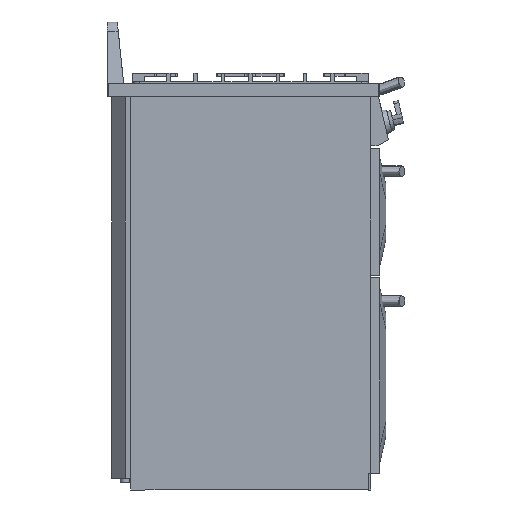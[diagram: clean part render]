
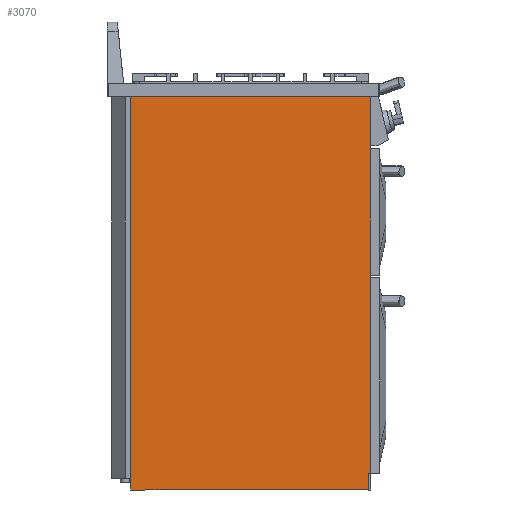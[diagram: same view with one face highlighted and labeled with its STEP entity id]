
A CAD part, left-side view. The second image highlights one B-rep face of the part: STEP entity #3070.
In plain terms, the highlighted planar face has unit normal (-1, 0, 0).
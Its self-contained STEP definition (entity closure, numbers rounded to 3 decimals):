
#3070=ADVANCED_FACE('',(#4920),#4126,.F.);
#4126=PLANE('',#23021);
#4920=FACE_OUTER_BOUND('',#6172,.T.);
#6172=EDGE_LOOP('',(#9028,#9029,#9030,#9031,#9032,#9033));
#9028=ORIENTED_EDGE('',*,*,#16256,.F.);
#9029=ORIENTED_EDGE('',*,*,#16257,.T.);
#9030=ORIENTED_EDGE('',*,*,#16247,.F.);
#9031=ORIENTED_EDGE('',*,*,#16258,.F.);
#9032=ORIENTED_EDGE('',*,*,#16248,.F.);
#9033=ORIENTED_EDGE('',*,*,#16241,.F.);
#13854=VERTEX_POINT('',#33634);
#13856=VERTEX_POINT('',#33637);
#13859=VERTEX_POINT('',#33644);
#13861=VERTEX_POINT('',#33648);
#13862=VERTEX_POINT('',#33652);
#13869=VERTEX_POINT('',#33668);
#16241=EDGE_CURVE('',#13854,#13856,#18966,.T.);
#16247=EDGE_CURVE('',#13861,#13859,#18972,.T.);
#16248=EDGE_CURVE('',#13856,#13862,#18973,.T.);
#16256=EDGE_CURVE('',#13869,#13854,#18980,.T.);
#16257=EDGE_CURVE('',#13869,#13859,#18981,.T.);
#16258=EDGE_CURVE('',#13862,#13861,#18982,.T.);
#18966=LINE('',#33636,#20963);
#18972=LINE('',#33649,#20969);
#18973=LINE('',#33651,#20970);
#18980=LINE('',#33667,#20977);
#18981=LINE('',#33669,#20978);
#18982=LINE('',#33670,#20979);
#20963=VECTOR('',#26116,1.);
#20969=VECTOR('',#26124,1.);
#20970=VECTOR('',#26127,1.);
#20977=VECTOR('',#26138,1.);
#20978=VECTOR('',#26139,1.);
#20979=VECTOR('',#26140,1.);
#23021=AXIS2_PLACEMENT_3D('',#33671,#26141,#26142);
#26116=DIRECTION('',(0.,1.,0.));
#26124=DIRECTION('',(0.,0.,-1.));
#26127=DIRECTION('',(0.,0.,1.));
#26138=DIRECTION('',(0.,0.,-1.));
#26139=DIRECTION('',(0.,-1.,0.));
#26140=DIRECTION('',(0.,-1.,0.));
#26141=DIRECTION('',(1.,0.,0.));
#26142=DIRECTION('',(0.,1.,0.));
#33634=CARTESIAN_POINT('',(-128.424,151.9,-321.983));
#33636=CARTESIAN_POINT('',(-128.424,146.9,-321.983));
#33637=CARTESIAN_POINT('',(-128.424,671.9,-321.983));
#33644=CARTESIAN_POINT('',(-128.424,146.9,-285.233));
#33648=CARTESIAN_POINT('',(-128.424,146.9,538.817));
#33649=CARTESIAN_POINT('',(-128.424,146.9,538.817));
#33651=CARTESIAN_POINT('',(-128.424,671.9,-321.983));
#33652=CARTESIAN_POINT('',(-128.424,671.9,538.817));
#33667=CARTESIAN_POINT('',(-128.424,151.9,-285.233));
#33668=CARTESIAN_POINT('',(-128.424,151.9,-285.233));
#33669=CARTESIAN_POINT('',(-128.424,151.9,-285.233));
#33670=CARTESIAN_POINT('',(-128.424,713.9,538.817));
#33671=CARTESIAN_POINT('',(-128.424,146.9,-321.983));
